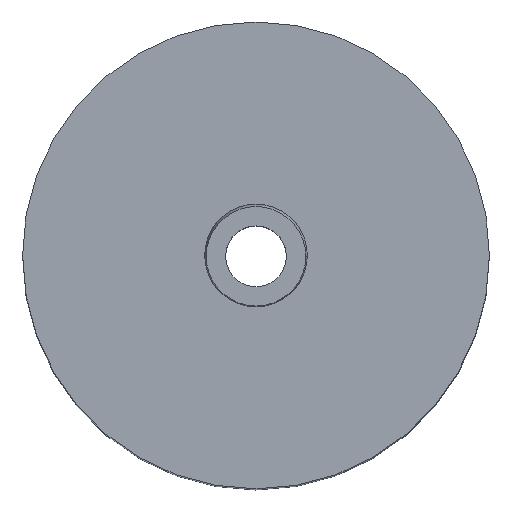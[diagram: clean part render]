
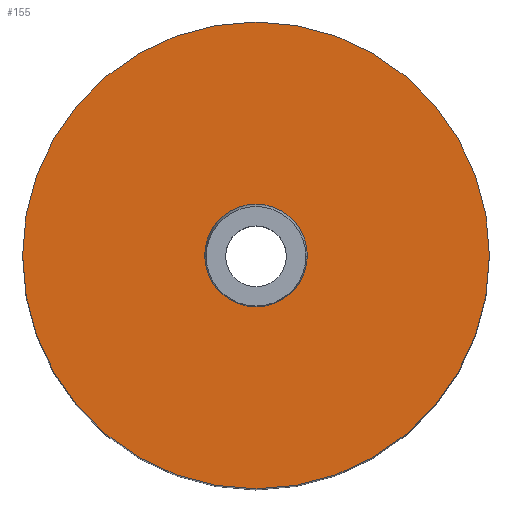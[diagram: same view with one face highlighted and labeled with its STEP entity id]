
A CAD part, top view. The second image highlights one B-rep face of the part: STEP entity #155.
In plain terms, the highlighted planar face has unit normal (0, 0, 1).
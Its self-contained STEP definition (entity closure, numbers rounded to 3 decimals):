
#155=ADVANCED_FACE('',(#179,#180),#174,.T.);
#174=PLANE('',#380);
#179=FACE_BOUND('',#189,.T.);
#180=FACE_BOUND('',#190,.T.);
#189=EDGE_LOOP('',(#213,#214));
#190=EDGE_LOOP('',(#215,#216));
#213=ORIENTED_EDGE('',*,*,#313,.T.);
#214=ORIENTED_EDGE('',*,*,#314,.T.);
#215=ORIENTED_EDGE('',*,*,#315,.F.);
#216=ORIENTED_EDGE('',*,*,#316,.F.);
#289=VERTEX_POINT('',#523);
#290=VERTEX_POINT('',#524);
#291=VERTEX_POINT('',#527);
#292=VERTEX_POINT('',#528);
#313=EDGE_CURVE('',#289,#290,#351,.T.);
#314=EDGE_CURVE('',#290,#289,#352,.T.);
#315=EDGE_CURVE('',#291,#292,#353,.T.);
#316=EDGE_CURVE('',#292,#291,#354,.T.);
#351=CIRCLE('',#376,50.);
#352=CIRCLE('',#377,50.);
#353=CIRCLE('',#378,11.);
#354=CIRCLE('',#379,11.);
#376=AXIS2_PLACEMENT_3D('',#522,#421,#422);
#377=AXIS2_PLACEMENT_3D('',#525,#423,#424);
#378=AXIS2_PLACEMENT_3D('',#526,#425,#426);
#379=AXIS2_PLACEMENT_3D('',#529,#427,#428);
#380=AXIS2_PLACEMENT_3D('',#530,#429,#430);
#421=DIRECTION('',(0.,0.,1.));
#422=DIRECTION('',(0.,1.,0.));
#423=DIRECTION('',(0.,0.,1.));
#424=DIRECTION('',(0.,-1.,0.));
#425=DIRECTION('',(0.,0.,1.));
#426=DIRECTION('',(0.,-1.,0.));
#427=DIRECTION('',(0.,0.,1.));
#428=DIRECTION('',(0.,1.,0.));
#429=DIRECTION('',(0.,0.,1.));
#430=DIRECTION('',(0.,1.,0.));
#522=CARTESIAN_POINT('',(0.,0.,140.));
#523=CARTESIAN_POINT('',(-50.,0.,140.));
#524=CARTESIAN_POINT('',(50.,0.,140.));
#525=CARTESIAN_POINT('',(0.,0.,140.));
#526=CARTESIAN_POINT('',(0.,0.,140.));
#527=CARTESIAN_POINT('',(11.,0.,140.));
#528=CARTESIAN_POINT('',(-11.,0.,140.));
#529=CARTESIAN_POINT('',(0.,0.,140.));
#530=CARTESIAN_POINT('',(0.,0.,140.));
